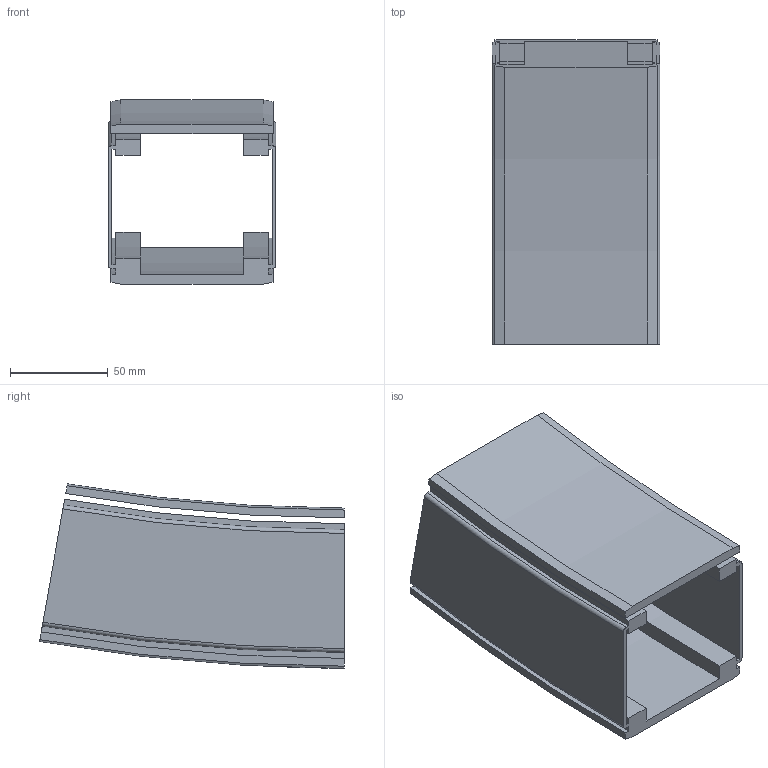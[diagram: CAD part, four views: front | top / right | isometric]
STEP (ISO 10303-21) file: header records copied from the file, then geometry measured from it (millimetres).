
FILE_DESCRIPTION(/* description */ ('VERTIKALKURVA S530 R860'),/* implementation_level */ '2;1');
FILE_NAME(/* name */ '530-5695+830-2000-NER-01.stp',/* time_stamp */ '2022-09-21T07:23:37+02:00',/* author */ ('Mathias.Dore'),/* organization */ ('CARRYLINE'),/* preprocessor_version */ 'ST-DEVELOPER v19.2',/* originating_system */ 'Autodesk Inventor 2023',/* authorisation */ '');
FILE_SCHEMA (('AUTOMOTIVE_DESIGN { 1 0 10303 214 3 1 1 }'));
Length unit declared in the file: millimetre
Products named in the file (1): 530-5695+830-2000-NER-01
Bounding box: 86 x 156.2 x 94.42 mm (x, y, z)
Volume: 222613.1 mm3; surface area: 110500.4 mm2
Topology: 2 solids, 2 shells, 87 faces, 234 edges, 156 vertices
Faces by surface type: plane 40, cylinder 25, bspline 14, cone 4, torus 4
Entity records: 7351 total; most frequent: CARTESIAN_POINT 5152, ORIENTED_EDGE 468, DIRECTION 408, EDGE_CURVE 234, VERTEX_POINT 156, AXIS2_PLACEMENT_3D 141, LINE 126, VECTOR 126
